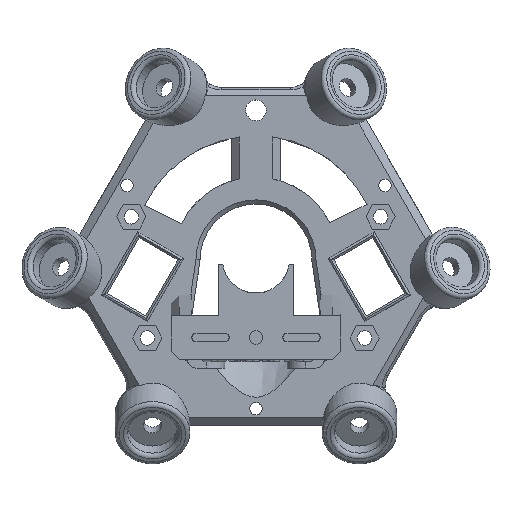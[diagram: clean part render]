
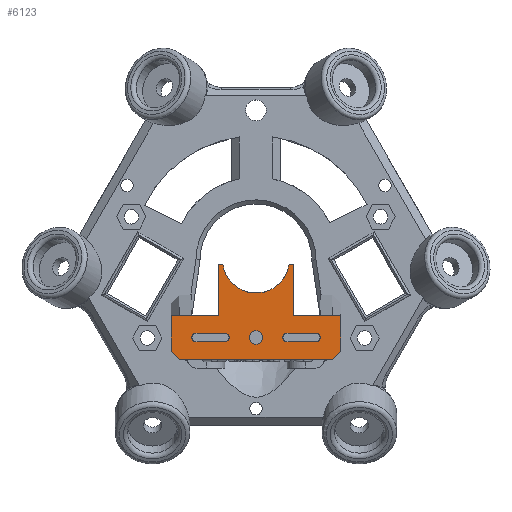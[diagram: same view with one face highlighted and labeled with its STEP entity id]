
A CAD part, top view. The second image highlights one B-rep face of the part: STEP entity #6123.
In plain terms, the highlighted planar face has unit normal (0, 0, 1).
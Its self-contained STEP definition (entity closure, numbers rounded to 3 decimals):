
#356=FACE_BOUND('',#1139,.T.);
#357=FACE_BOUND('',#1140,.T.);
#358=FACE_BOUND('',#1141,.T.);
#476=CIRCLE('',#6479,1.);
#478=CIRCLE('',#6483,1.);
#480=CIRCLE('',#6488,1.);
#482=CIRCLE('',#6492,1.);
#484=CIRCLE('',#6496,1.65);
#491=CIRCLE('',#6513,8.1);
#763=FACE_OUTER_BOUND('',#1138,.T.);
#1138=EDGE_LOOP('',(#4175,#4176,#4177,#4178,#4179,#4180,#4181,#4182,#4183,
#4184,#4185,#4186));
#1139=EDGE_LOOP('',(#4187,#4188,#4189,#4190));
#1140=EDGE_LOOP('',(#4191,#4192,#4193,#4194));
#1141=EDGE_LOOP('',(#4195));
#1609=LINE('',#8670,#2097);
#1615=LINE('',#8685,#2103);
#1617=LINE('',#8695,#2105);
#1623=LINE('',#8710,#2111);
#1637=LINE('',#8766,#2125);
#1640=LINE('',#8773,#2128);
#1644=LINE('',#8781,#2132);
#1645=LINE('',#8782,#2133);
#1646=LINE('',#8784,#2134);
#1647=LINE('',#8786,#2135);
#1648=LINE('',#8788,#2136);
#1649=LINE('',#8792,#2137);
#1650=LINE('',#8794,#2138);
#1651=LINE('',#8796,#2139);
#1652=LINE('',#8797,#2140);
#2097=VECTOR('',#7047,10.);
#2103=VECTOR('',#7061,10.);
#2105=VECTOR('',#7073,10.);
#2111=VECTOR('',#7087,10.);
#2125=VECTOR('',#7143,10.);
#2128=VECTOR('',#7148,10.);
#2132=VECTOR('',#7154,10.);
#2133=VECTOR('',#7155,10.);
#2134=VECTOR('',#7156,10.);
#2135=VECTOR('',#7157,10.);
#2136=VECTOR('',#7158,10.);
#2137=VECTOR('',#7161,10.);
#2138=VECTOR('',#7162,10.);
#2139=VECTOR('',#7163,10.);
#2140=VECTOR('',#7164,10.);
#2584=VERTEX_POINT('',#8666);
#2586=VERTEX_POINT('',#8669);
#2589=VERTEX_POINT('',#8677);
#2591=VERTEX_POINT('',#8683);
#2592=VERTEX_POINT('',#8691);
#2594=VERTEX_POINT('',#8694);
#2597=VERTEX_POINT('',#8702);
#2599=VERTEX_POINT('',#8708);
#2601=VERTEX_POINT('',#8718);
#2619=VERTEX_POINT('',#8763);
#2620=VERTEX_POINT('',#8765);
#2622=VERTEX_POINT('',#8771);
#2623=VERTEX_POINT('',#8772);
#2626=VERTEX_POINT('',#8780);
#2627=VERTEX_POINT('',#8783);
#2628=VERTEX_POINT('',#8785);
#2629=VERTEX_POINT('',#8787);
#2630=VERTEX_POINT('',#8789);
#2631=VERTEX_POINT('',#8791);
#2632=VERTEX_POINT('',#8793);
#2633=VERTEX_POINT('',#8795);
#3198=EDGE_CURVE('',#2586,#2584,#1609,.T.);
#3203=EDGE_CURVE('',#2589,#2584,#476,.F.);
#3206=EDGE_CURVE('',#2589,#2591,#1615,.T.);
#3208=EDGE_CURVE('',#2586,#2591,#478,.F.);
#3210=EDGE_CURVE('',#2594,#2592,#1617,.T.);
#3215=EDGE_CURVE('',#2597,#2592,#480,.F.);
#3218=EDGE_CURVE('',#2597,#2599,#1623,.T.);
#3220=EDGE_CURVE('',#2594,#2599,#482,.F.);
#3222=EDGE_CURVE('',#2601,#2601,#484,.T.);
#3242=EDGE_CURVE('',#2619,#2620,#1637,.T.);
#3245=EDGE_CURVE('',#2622,#2623,#1640,.T.);
#3249=EDGE_CURVE('',#2626,#2622,#1644,.T.);
#3250=EDGE_CURVE('',#2620,#2626,#1645,.T.);
#3251=EDGE_CURVE('',#2627,#2619,#1646,.T.);
#3252=EDGE_CURVE('',#2628,#2627,#1647,.T.);
#3253=EDGE_CURVE('',#2629,#2628,#1648,.T.);
#3254=EDGE_CURVE('',#2630,#2629,#491,.T.);
#3255=EDGE_CURVE('',#2631,#2630,#1649,.T.);
#3256=EDGE_CURVE('',#2632,#2631,#1650,.T.);
#3257=EDGE_CURVE('',#2633,#2632,#1651,.T.);
#3258=EDGE_CURVE('',#2623,#2633,#1652,.T.);
#4175=ORIENTED_EDGE('',*,*,#3245,.F.);
#4176=ORIENTED_EDGE('',*,*,#3249,.F.);
#4177=ORIENTED_EDGE('',*,*,#3250,.F.);
#4178=ORIENTED_EDGE('',*,*,#3242,.F.);
#4179=ORIENTED_EDGE('',*,*,#3251,.F.);
#4180=ORIENTED_EDGE('',*,*,#3252,.F.);
#4181=ORIENTED_EDGE('',*,*,#3253,.F.);
#4182=ORIENTED_EDGE('',*,*,#3254,.F.);
#4183=ORIENTED_EDGE('',*,*,#3255,.F.);
#4184=ORIENTED_EDGE('',*,*,#3256,.F.);
#4185=ORIENTED_EDGE('',*,*,#3257,.F.);
#4186=ORIENTED_EDGE('',*,*,#3258,.F.);
#4187=ORIENTED_EDGE('',*,*,#3210,.T.);
#4188=ORIENTED_EDGE('',*,*,#3215,.F.);
#4189=ORIENTED_EDGE('',*,*,#3218,.T.);
#4190=ORIENTED_EDGE('',*,*,#3220,.F.);
#4191=ORIENTED_EDGE('',*,*,#3203,.F.);
#4192=ORIENTED_EDGE('',*,*,#3206,.T.);
#4193=ORIENTED_EDGE('',*,*,#3208,.F.);
#4194=ORIENTED_EDGE('',*,*,#3198,.T.);
#4195=ORIENTED_EDGE('',*,*,#3222,.T.);
#5930=PLANE('',#6512);
#6123=ADVANCED_FACE('',(#763,#356,#357,#358),#5930,.F.);
#6479=AXIS2_PLACEMENT_3D('',#8679,#7055,#7056);
#6483=AXIS2_PLACEMENT_3D('',#8688,#7066,#7067);
#6488=AXIS2_PLACEMENT_3D('',#8704,#7081,#7082);
#6492=AXIS2_PLACEMENT_3D('',#8713,#7092,#7093);
#6496=AXIS2_PLACEMENT_3D('',#8719,#7100,#7101);
#6512=AXIS2_PLACEMENT_3D('',#8779,#7152,#7153);
#6513=AXIS2_PLACEMENT_3D('',#8790,#7159,#7160);
#7047=DIRECTION('',(1.,0.,0.));
#7055=DIRECTION('center_axis',(0.,0.,-1.));
#7056=DIRECTION('ref_axis',(0.707,-0.707,0.));
#7061=DIRECTION('',(-1.,0.,0.));
#7066=DIRECTION('center_axis',(0.,0.,-1.));
#7067=DIRECTION('ref_axis',(-0.707,0.707,0.));
#7073=DIRECTION('',(1.,0.,0.));
#7081=DIRECTION('center_axis',(0.,0.,-1.));
#7082=DIRECTION('ref_axis',(0.707,-0.707,0.));
#7087=DIRECTION('',(-1.,0.,0.));
#7092=DIRECTION('center_axis',(0.,0.,-1.));
#7093=DIRECTION('ref_axis',(-0.707,0.707,0.));
#7100=DIRECTION('center_axis',(0.,0.,-1.));
#7101=DIRECTION('ref_axis',(-1.,0.,0.));
#7143=DIRECTION('',(0.,-1.,0.));
#7148=DIRECTION('',(-0.707,0.707,0.));
#7152=DIRECTION('center_axis',(0.,0.,-1.));
#7153=DIRECTION('ref_axis',(-1.,0.,0.));
#7154=DIRECTION('',(-1.,0.,0.));
#7155=DIRECTION('',(-0.707,-0.707,0.));
#7156=DIRECTION('',(1.,0.,0.));
#7157=DIRECTION('',(0.,-1.,0.));
#7158=DIRECTION('',(1.,0.,0.));
#7159=DIRECTION('center_axis',(0.,0.,1.));
#7160=DIRECTION('ref_axis',(0.988,0.157,0.));
#7161=DIRECTION('',(1.,0.,0.));
#7162=DIRECTION('',(0.,1.,0.));
#7163=DIRECTION('',(1.,0.,0.));
#7164=DIRECTION('',(0.,1.,0.));
#8666=CARTESIAN_POINT('',(14.5,-17.85,49.5));
#8669=CARTESIAN_POINT('',(7.5,-17.85,49.5));
#8670=CARTESIAN_POINT('',(9.338,-17.85,49.5));
#8677=CARTESIAN_POINT('',(14.5,-19.85,49.5));
#8679=CARTESIAN_POINT('Origin',(14.5,-18.85,49.5));
#8683=CARTESIAN_POINT('',(7.5,-19.85,49.5));
#8685=CARTESIAN_POINT('',(4.838,-19.85,49.5));
#8688=CARTESIAN_POINT('Origin',(7.5,-18.85,49.5));
#8691=CARTESIAN_POINT('',(-7.5,-17.85,49.5));
#8694=CARTESIAN_POINT('',(-14.5,-17.85,49.5));
#8695=CARTESIAN_POINT('',(-1.662,-17.85,49.5));
#8702=CARTESIAN_POINT('',(-7.5,-19.85,49.5));
#8704=CARTESIAN_POINT('Origin',(-7.5,-18.85,49.5));
#8708=CARTESIAN_POINT('',(-14.5,-19.85,49.5));
#8710=CARTESIAN_POINT('',(-6.162,-19.85,49.5));
#8713=CARTESIAN_POINT('Origin',(-14.5,-18.85,49.5));
#8718=CARTESIAN_POINT('',(1.65,-18.85,49.5));
#8719=CARTESIAN_POINT('Origin',(0.,-18.85,49.5));
#8763=CARTESIAN_POINT('',(20.5,-13.5,49.5));
#8765=CARTESIAN_POINT('',(20.5,-22.2,49.5));
#8766=CARTESIAN_POINT('',(20.5,-16.701,49.5));
#8771=CARTESIAN_POINT('',(-18.5,-24.2,49.5));
#8772=CARTESIAN_POINT('',(-20.5,-22.2,49.5));
#8773=CARTESIAN_POINT('',(-17.331,-25.369,49.5));
#8779=CARTESIAN_POINT('Origin',(3.177,-9.201,49.5));
#8780=CARTESIAN_POINT('',(18.5,-24.2,49.5));
#8781=CARTESIAN_POINT('',(-8.662,-24.2,49.5));
#8782=CARTESIAN_POINT('',(18.919,-23.781,49.5));
#8783=CARTESIAN_POINT('',(9.,-13.5,49.5));
#8784=CARTESIAN_POINT('',(-6.162,-13.5,49.5));
#8785=CARTESIAN_POINT('',(9.,-1.269,49.5));
#8786=CARTESIAN_POINT('',(9.,-5.235,49.5));
#8787=CARTESIAN_POINT('',(8.,-1.269,49.5));
#8788=CARTESIAN_POINT('',(5.588,-1.269,49.5));
#8789=CARTESIAN_POINT('',(-8.,-1.269,49.5));
#8790=CARTESIAN_POINT('Origin',(0.,0.,49.5));
#8791=CARTESIAN_POINT('',(-9.,-1.269,49.5));
#8792=CARTESIAN_POINT('',(-2.912,-1.269,49.5));
#8793=CARTESIAN_POINT('',(-9.,-13.5,49.5));
#8794=CARTESIAN_POINT('',(-9.,-11.351,49.5));
#8795=CARTESIAN_POINT('',(-20.5,-13.5,49.5));
#8796=CARTESIAN_POINT('',(-6.162,-13.5,49.5));
#8797=CARTESIAN_POINT('',(-20.5,-11.351,49.5));
